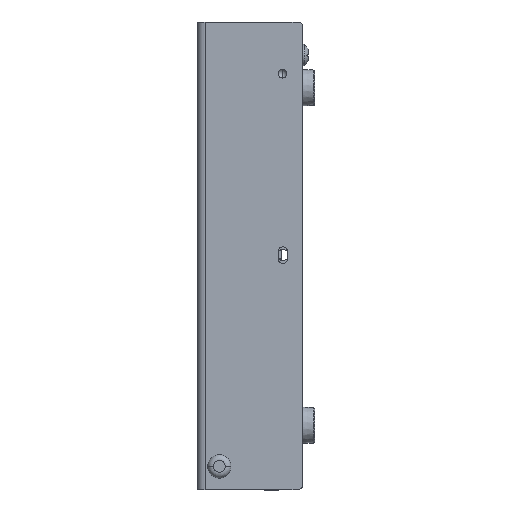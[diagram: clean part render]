
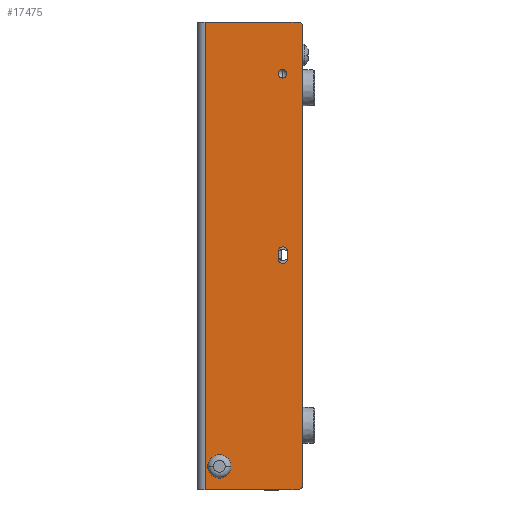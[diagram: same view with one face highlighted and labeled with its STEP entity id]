
A CAD part, left-side view. The second image highlights one B-rep face of the part: STEP entity #17475.
In plain terms, the highlighted planar face has unit normal (-1, 0, 0).
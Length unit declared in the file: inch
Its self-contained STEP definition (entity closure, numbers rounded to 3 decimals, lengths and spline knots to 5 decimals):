
#4654=DIRECTION('',(0.,0.,-1.));
#4655=VECTOR('',#4654,7.06);
#4656=CARTESIAN_POINT('',(-2.936,-0.08,3.53));
#4657=LINE('',#4656,#4655);
#4672=DIRECTION('',(0.,0.,1.));
#4673=VECTOR('',#4672,6.92);
#4674=CARTESIAN_POINT('',(-2.936,-1.554,-3.46));
#4675=LINE('',#4674,#4673);
#4676=DIRECTION('',(0.,-1.,0.));
#4677=VECTOR('',#4676,1.404);
#4678=CARTESIAN_POINT('',(-2.936,-0.08,-3.53));
#4679=LINE('',#4678,#4677);
#4680=DIRECTION('',(0.,1.,0.));
#4681=VECTOR('',#4680,1.404);
#4682=CARTESIAN_POINT('',(-2.936,-1.484,3.53));
#4683=LINE('',#4682,#4681);
#4684=DIRECTION('',(0.,0.,-1.));
#4685=VECTOR('',#4684,0.11);
#4686=CARTESIAN_POINT('',(-2.936,-1.184,0.065));
#4687=LINE('',#4686,#4685);
#4688=CARTESIAN_POINT('',(-2.936,-1.254,-0.045));
#4689=DIRECTION('',(1.,0.,0.));
#4690=DIRECTION('',(0.,-1.,0.));
#4691=AXIS2_PLACEMENT_3D('',#4688,#4689,#4690);
#4693=DIRECTION('',(0.,0.,1.));
#4694=VECTOR('',#4693,0.11);
#4695=CARTESIAN_POINT('',(-2.936,-1.324,-0.045));
#4696=LINE('',#4695,#4694);
#4697=CARTESIAN_POINT('',(-2.936,-1.254,0.065));
#4698=DIRECTION('',(1.,0.,0.));
#4699=DIRECTION('',(0.,1.,0.));
#4700=AXIS2_PLACEMENT_3D('',#4697,#4698,#4699);
#4702=CARTESIAN_POINT('',(-2.936,-1.248,2.75));
#4703=DIRECTION('',(-1.,0.,0.));
#4704=DIRECTION('',(0.,0.,-1.));
#4705=AXIS2_PLACEMENT_3D('',#4702,#4703,#4704);
#4707=CARTESIAN_POINT('',(-2.936,-1.248,2.75));
#4708=DIRECTION('',(-1.,0.,0.));
#4709=DIRECTION('',(0.,0.,1.));
#4710=AXIS2_PLACEMENT_3D('',#4707,#4708,#4709);
#4712=CARTESIAN_POINT('',(-2.936,-0.294,-3.18));
#4713=DIRECTION('',(1.,0.,0.));
#4714=DIRECTION('',(0.,-1.,0.));
#4715=AXIS2_PLACEMENT_3D('',#4712,#4713,#4714);
#4717=CARTESIAN_POINT('',(-2.936,-0.294,-3.18));
#4718=DIRECTION('',(1.,0.,0.));
#4719=DIRECTION('',(0.,1.,0.));
#4720=AXIS2_PLACEMENT_3D('',#4717,#4718,#4719);
#4735=CARTESIAN_POINT('',(-2.936,-1.484,3.46));
#4736=DIRECTION('',(-1.,0.,0.));
#4737=DIRECTION('',(0.,-1.,0.));
#4738=AXIS2_PLACEMENT_3D('',#4735,#4736,#4737);
#4841=CARTESIAN_POINT('',(-2.936,-1.484,-3.46));
#4842=DIRECTION('',(-1.,0.,0.));
#4843=DIRECTION('',(0.,0.,-1.));
#4844=AXIS2_PLACEMENT_3D('',#4841,#4842,#4843);
#9000=CARTESIAN_POINT('',(-2.936,-0.08,3.53));
#9001=CARTESIAN_POINT('',(-2.936,-0.08,-3.53));
#9002=VERTEX_POINT('',#9000);
#9003=VERTEX_POINT('',#9001);
#9032=CARTESIAN_POINT('',(-2.936,-1.184,0.065));
#9033=CARTESIAN_POINT('',(-2.936,-1.184,-0.045));
#9034=VERTEX_POINT('',#9032);
#9035=VERTEX_POINT('',#9033);
#9036=CARTESIAN_POINT('',(-2.936,-1.324,-0.045));
#9037=VERTEX_POINT('',#9036);
#9038=CARTESIAN_POINT('',(-2.936,-1.324,0.065));
#9039=VERTEX_POINT('',#9038);
#9066=CARTESIAN_POINT('',(-2.936,-1.248,2.68367));
#9067=CARTESIAN_POINT('',(-2.936,-1.248,2.81633));
#9068=VERTEX_POINT('',#9066);
#9069=VERTEX_POINT('',#9067);
#9077=CARTESIAN_POINT('',(-2.936,-1.484,3.53));
#9079=VERTEX_POINT('',#9077);
#9082=CARTESIAN_POINT('',(-2.936,-1.554,3.46));
#9083=VERTEX_POINT('',#9082);
#9085=CARTESIAN_POINT('',(-2.936,-1.554,-3.46));
#9087=VERTEX_POINT('',#9085);
#9090=CARTESIAN_POINT('',(-2.936,-1.484,-3.53));
#9091=VERTEX_POINT('',#9090);
#9214=CARTESIAN_POINT('',(-2.936,-0.471,-3.18));
#9215=CARTESIAN_POINT('',(-2.936,-0.117,-3.18));
#9216=VERTEX_POINT('',#9214);
#9217=VERTEX_POINT('',#9215);
#17435=CARTESIAN_POINT('',(-2.936,0.036,1.85254));
#17436=DIRECTION('',(-1.,0.,0.));
#17437=DIRECTION('',(0.,0.,1.));
#17438=AXIS2_PLACEMENT_3D('',#17435,#17436,#17437);
#17439=PLANE('',#17438);
#17441=ORIENTED_EDGE('',*,*,#17440,.F.);
#17443=ORIENTED_EDGE('',*,*,#17442,.F.);
#17445=ORIENTED_EDGE('',*,*,#17444,.F.);
#17447=ORIENTED_EDGE('',*,*,#17446,.F.);
#17448=ORIENTED_EDGE('',*,*,#17425,.F.);
#17450=ORIENTED_EDGE('',*,*,#17449,.F.);
#17451=EDGE_LOOP('',(#17441,#17443,#17445,#17447,#17448,#17450));
#17452=FACE_OUTER_BOUND('',#17451,.F.);
#17454=ORIENTED_EDGE('',*,*,#17453,.T.);
#17456=ORIENTED_EDGE('',*,*,#17455,.F.);
#17458=ORIENTED_EDGE('',*,*,#17457,.T.);
#17460=ORIENTED_EDGE('',*,*,#17459,.F.);
#17461=EDGE_LOOP('',(#17454,#17456,#17458,#17460));
#17462=FACE_BOUND('',#17461,.F.);
#17464=ORIENTED_EDGE('',*,*,#17463,.T.);
#17466=ORIENTED_EDGE('',*,*,#17465,.T.);
#17467=EDGE_LOOP('',(#17464,#17466));
#17468=FACE_BOUND('',#17467,.F.);
#17470=ORIENTED_EDGE('',*,*,#17469,.F.);
#17472=ORIENTED_EDGE('',*,*,#17471,.F.);
#17473=EDGE_LOOP('',(#17470,#17472));
#17474=FACE_BOUND('',#17473,.F.);
#17475=ADVANCED_FACE('',(#17452,#17462,#17468,#17474),#17439,.T.);
#4692=CIRCLE('',#4691,0.07);
#4701=CIRCLE('',#4700,0.07);
#4706=CIRCLE('',#4705,0.06633);
#4711=CIRCLE('',#4710,0.06633);
#4716=CIRCLE('',#4715,0.177);
#4721=CIRCLE('',#4720,0.177);
#4739=CIRCLE('',#4738,0.07);
#4845=CIRCLE('',#4844,0.07);
#17425=EDGE_CURVE('',#9002,#9003,#4657,.T.);
#17440=EDGE_CURVE('',#9083,#9079,#4739,.T.);
#17442=EDGE_CURVE('',#9087,#9083,#4675,.T.);
#17444=EDGE_CURVE('',#9091,#9087,#4845,.T.);
#17446=EDGE_CURVE('',#9003,#9091,#4679,.T.);
#17449=EDGE_CURVE('',#9079,#9002,#4683,.T.);
#17453=EDGE_CURVE('',#9034,#9035,#4687,.T.);
#17455=EDGE_CURVE('',#9037,#9035,#4692,.T.);
#17457=EDGE_CURVE('',#9037,#9039,#4696,.T.);
#17459=EDGE_CURVE('',#9034,#9039,#4701,.T.);
#17463=EDGE_CURVE('',#9068,#9069,#4706,.T.);
#17465=EDGE_CURVE('',#9069,#9068,#4711,.T.);
#17469=EDGE_CURVE('',#9216,#9217,#4716,.T.);
#17471=EDGE_CURVE('',#9217,#9216,#4721,.T.);
